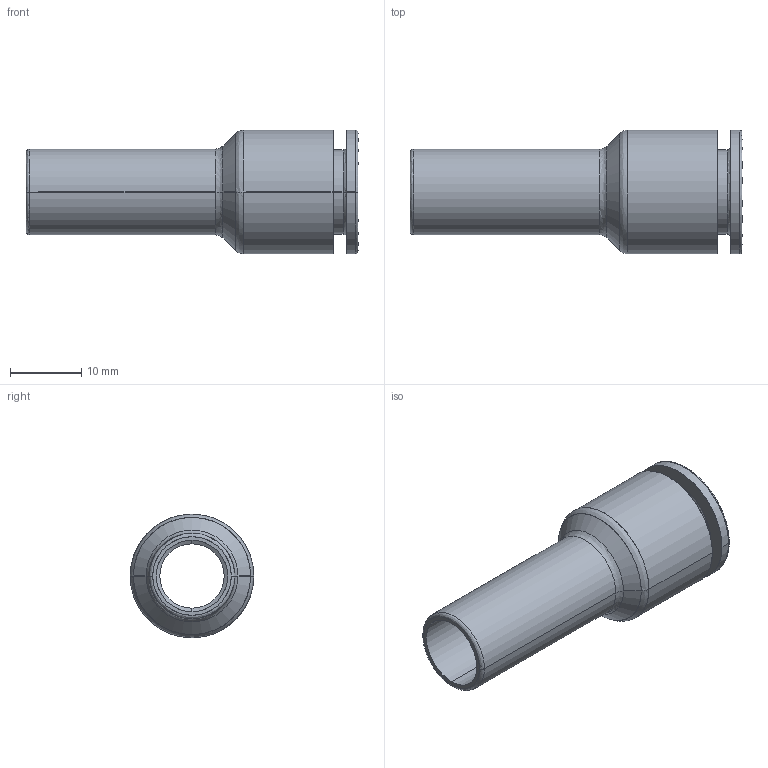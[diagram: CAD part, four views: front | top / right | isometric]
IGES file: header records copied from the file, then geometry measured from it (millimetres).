
Start section: SolidWorks IGES file using analytic representation for surfaces
Global section: file name: K:\Disegni Esecutivi\SERIE 54000\54000-Assiemi\54700\IGES e STEP\5470000010A.IGS; native system: SolidWorks 2020; preprocessor: SolidWorks 2020; author: LUCA COMETTI; date: 250702.161915; units: millimetre
Bounding box: 46.5 x 17.3 x 17.3 mm (x, y, z)
Surface area: 3965 mm2 (no closed solid volume)
Topology: 0 solids, 0 shells, 129 faces, 1194 edges, 1194 vertices
Faces by surface type: bspline 107, revolution 22
